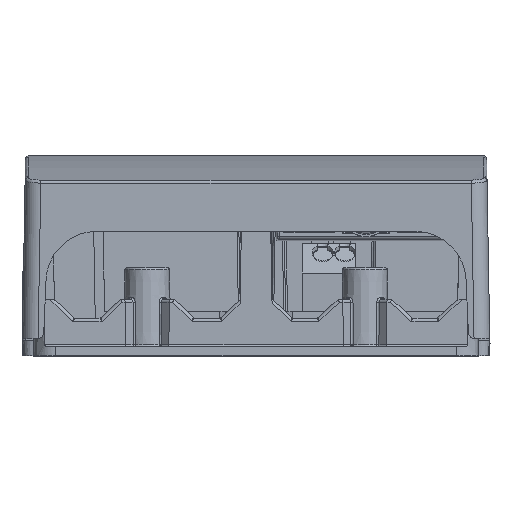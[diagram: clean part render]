
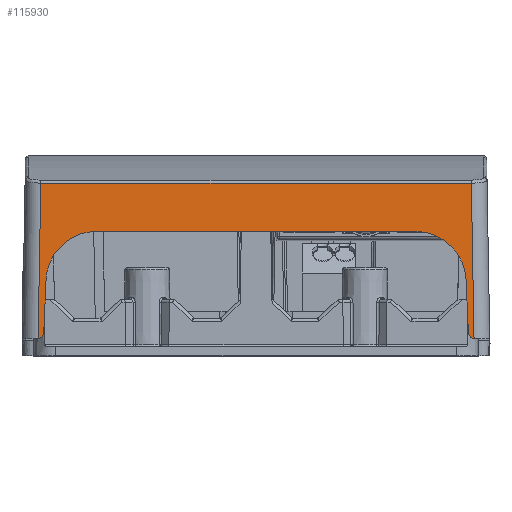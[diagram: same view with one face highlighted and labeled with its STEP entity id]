
A CAD part, left-side view. The second image highlights one B-rep face of the part: STEP entity #115930.
In plain terms, the highlighted planar face has unit normal (-1, 0, 0.018).
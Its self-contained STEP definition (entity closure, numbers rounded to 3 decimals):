
#3608=FACE_OUTER_BOUND($,#38119,.T.);
#13367=LINE($,#177029,#24503);
#13370=LINE($,#177037,#24506);
#13373=LINE($,#177051,#24509);
#13375=LINE($,#177055,#24511);
#13376=LINE($,#177057,#24512);
#13377=LINE($,#177058,#24513);
#24503=VECTOR($,#138334,8.402);
#24506=VECTOR($,#138343,50.683);
#24509=VECTOR($,#138352,8.402);
#24511=VECTOR($,#138356,24.681);
#24512=VECTOR($,#138357,68.339);
#24513=VECTOR($,#138358,24.681);
#33023=PLANE($,#122958);
#38119=EDGE_LOOP($,(#84623,#84624,#84625,#84626,#84627,#84628,#84629,#84630,
#84631,#84632));
#43104=ELLIPSE($,#122950,1.,1.);
#43105=ELLIPSE($,#122953,8.001,8.);
#43106=ELLIPSE($,#122956,1.,1.);
#43107=ELLIPSE($,#122959,8.001,8.);
#49705=VERTEX_POINT($,#177018);
#49706=VERTEX_POINT($,#177020);
#49707=VERTEX_POINT($,#177027);
#49708=VERTEX_POINT($,#177031);
#49709=VERTEX_POINT($,#177035);
#49711=VERTEX_POINT($,#177041);
#49712=VERTEX_POINT($,#177046);
#49713=VERTEX_POINT($,#177050);
#49714=VERTEX_POINT($,#177054);
#49715=VERTEX_POINT($,#177056);
#62436=EDGE_CURVE($,#49705,#49706,#43104,.T.);
#62439=EDGE_CURVE($,#49705,#49707,#13367,.T.);
#62441=EDGE_CURVE($,#49708,#49707,#43105,.T.);
#62443=EDGE_CURVE($,#49708,#49709,#13370,.F.);
#62446=EDGE_CURVE($,#49711,#49712,#43106,.T.);
#62448=EDGE_CURVE($,#49713,#49712,#13373,.T.);
#62450=EDGE_CURVE($,#49714,#49711,#13375,.T.);
#62451=EDGE_CURVE($,#49715,#49714,#13376,.T.);
#62452=EDGE_CURVE($,#49706,#49715,#13377,.T.);
#62453=EDGE_CURVE($,#49713,#49709,#43107,.T.);
#84623=ORIENTED_EDGE($,*,*,#62446,.F.);
#84624=ORIENTED_EDGE($,*,*,#62450,.F.);
#84625=ORIENTED_EDGE($,*,*,#62451,.F.);
#84626=ORIENTED_EDGE($,*,*,#62452,.F.);
#84627=ORIENTED_EDGE($,*,*,#62436,.F.);
#84628=ORIENTED_EDGE($,*,*,#62439,.T.);
#84629=ORIENTED_EDGE($,*,*,#62441,.F.);
#84630=ORIENTED_EDGE($,*,*,#62443,.T.);
#84631=ORIENTED_EDGE($,*,*,#62453,.F.);
#84632=ORIENTED_EDGE($,*,*,#62448,.T.);
#115930=ADVANCED_FACE($,(#3608),#33023,.T.);
#122950=AXIS2_PLACEMENT_3D($,#177021,#138329,#138330);
#122953=AXIS2_PLACEMENT_3D($,#177033,#138338,#138339);
#122956=AXIS2_PLACEMENT_3D($,#177047,#138347,#138348);
#122958=AXIS2_PLACEMENT_3D($,#177053,#138354,#138355);
#122959=AXIS2_PLACEMENT_3D($,#177059,#138359,#138360);
#138329=DIRECTION('center_axis',(1.,0.,
-0.017));
#138330=DIRECTION('ref_axis',(-0.017,0.,
-1.));
#138334=DIRECTION($,(0.017,-0.044,0.999));
#138338=DIRECTION('center_axis',(-1.,0.,
0.017));
#138339=DIRECTION('ref_axis',(0.017,0.,
1.));
#138343=DIRECTION($,(0.,1.,0.));
#138347=DIRECTION('center_axis',(1.,0.,
-0.017));
#138348=DIRECTION('ref_axis',(-0.017,0.,
-1.));
#138352=DIRECTION($,(-0.017,-0.044,-0.999));
#138354=DIRECTION('center_axis',(-1.,0.,
0.017));
#138355=DIRECTION('ref_axis',(-0.017,0.,-1.));
#138356=DIRECTION($,(-0.017,-0.017,-1.));
#138357=DIRECTION($,(0.,-1.,0.));
#138358=DIRECTION($,(0.017,-0.017,1.));
#138359=DIRECTION('center_axis',(-1.,0.,
0.017));
#138360=DIRECTION('ref_axis',(0.017,0.,
1.));
#177018=CARTESIAN_POINT('',(-99.983,33.7,3.706));
#177020=CARTESIAN_POINT('',(-100.,34.6,2.755));
#177021=CARTESIAN_POINT('Origin',(-99.983,34.7,3.75));
#177027=CARTESIAN_POINT('',(-99.837,33.334,12.099));
#177029=CARTESIAN_POINT($,(-99.825,33.304,12.791));
#177031=CARTESIAN_POINT('',(-99.703,25.342,19.75));
#177033=CARTESIAN_POINT('Origin',(-99.843,25.342,11.75));
#177035=CARTESIAN_POINT('',(-99.703,-25.342,19.75));
#177037=CARTESIAN_POINT($,(-99.703,-35.05,19.75));
#177041=CARTESIAN_POINT('',(-100.,-34.6,2.755));
#177046=CARTESIAN_POINT('',(-99.983,-33.7,3.706));
#177047=CARTESIAN_POINT('Origin',(-99.983,-34.7,3.75));
#177050=CARTESIAN_POINT('',(-99.837,-33.334,12.099));
#177051=CARTESIAN_POINT($,(-100.001,-33.745,2.685));
#177053=CARTESIAN_POINT('Origin',(-100.,-37.1,2.75));
#177054=CARTESIAN_POINT('',(-99.569,-34.17,27.429));
#177055=CARTESIAN_POINT($,(-99.991,-34.592,3.254));
#177056=CARTESIAN_POINT('',(-99.569,34.17,27.429));
#177057=CARTESIAN_POINT($,(-99.569,37.1,27.429));
#177058=CARTESIAN_POINT($,(-99.989,34.59,3.354));
#177059=CARTESIAN_POINT('Origin',(-99.843,-25.342,11.75));
